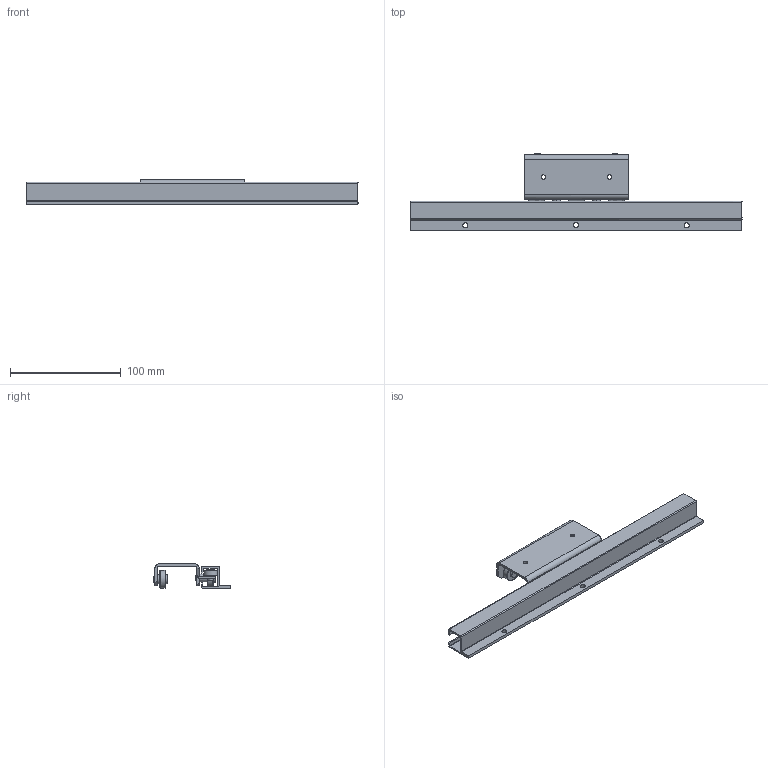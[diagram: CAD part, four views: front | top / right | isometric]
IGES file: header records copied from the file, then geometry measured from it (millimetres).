
Global section: file name: No Iges File Name specified; native system: AutoDesk Inventor R10; preprocessor: AutoDesk Inventor Iges Exporter R10; author: No Author specified; organization: No Organization specified; date: 20110608.135859; units: millimetre
Bounding box: 300 x 69 x 22 mm (x, y, z)
Surface area: 58841.1 mm2 (no closed solid volume)
Topology: 0 solids, 0 shells, 253 faces, 1668 edges, 1668 vertices
Faces by surface type: bspline 253
